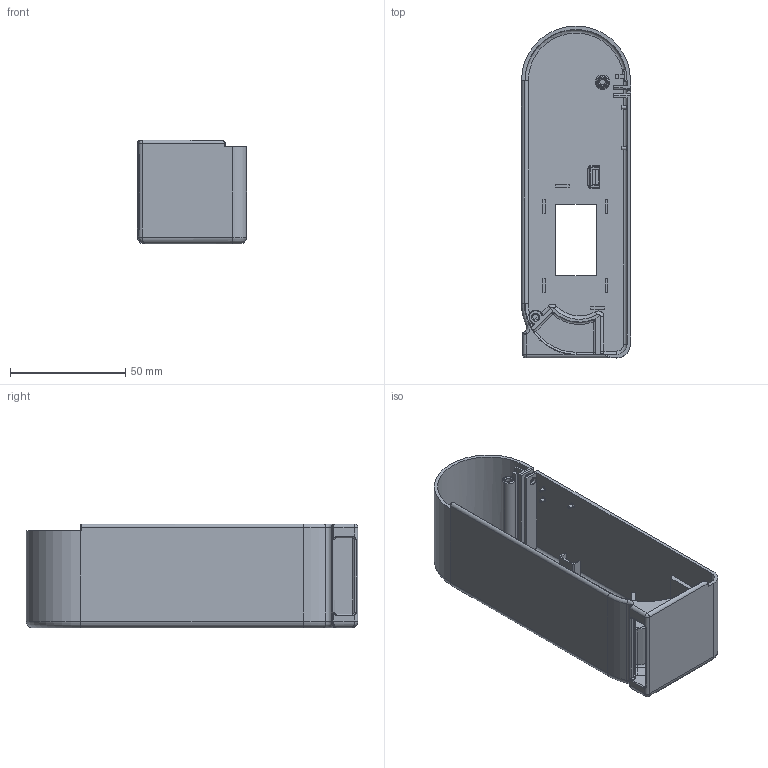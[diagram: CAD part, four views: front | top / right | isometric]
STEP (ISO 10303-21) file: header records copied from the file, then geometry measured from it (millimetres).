
FILE_DESCRIPTION((''),'2;1');
FILE_NAME('MONO-LOAD-MAIN-BOX','2021-03-24T',('Saeed'),(''),'PRO/ENGINEER BY PARAMETRIC TECHNOLOGY CORPORATION, 2012130','PRO/ENGINEER BY PARAMETRIC TECHNOLOGY CORPORATION, 2012130','');
FILE_SCHEMA(('CONFIG_CONTROL_DESIGN'));
Length unit declared in the file: millimetre
Products named in the file (1): MONO-LOAD-MAIN-BOX
Bounding box: 47.3 x 144 x 45.1 mm (x, y, z)
Volume: 36931.6 mm3; surface area: 48196.6 mm2
Topology: 1 solids, 1 shells, 281 faces, 685 edges, 417 vertices
Faces by surface type: plane 104, cylinder 88, torus 49, bspline 24, cone 12, sphere 4
Entity records: 10397 total; most frequent: CARTESIAN_POINT 3847, ORIENTED_EDGE 1370, DIRECTION 1357, EDGE_CURVE 685, AXIS2_PLACEMENT_3D 505, VERTEX_POINT 417, VECTOR 347, LINE 347
